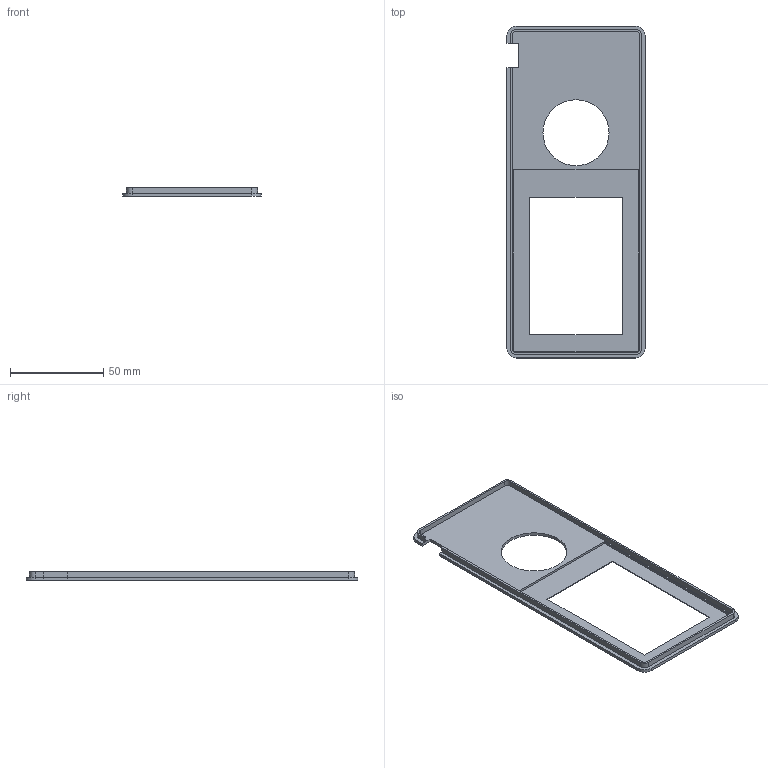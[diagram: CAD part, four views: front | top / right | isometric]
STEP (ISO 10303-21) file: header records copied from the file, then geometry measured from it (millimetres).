
FILE_DESCRIPTION(('Open CASCADE Model'),'2;1');
FILE_NAME('Open CASCADE Shape Model','2026-09-22T06:57:09',('Author'),( 'Open CASCADE'),'Open CASCADE STEP processor 7.9','Open CASCADE 7.9' ,'Unknown');
FILE_SCHEMA(('AUTOMOTIVE_DESIGN { 1 0 10303 214 1 1 1 1 }'));
Length unit declared in the file: millimetre
Products named in the file (1): Open CASCADE STEP translator 7.9 2
Bounding box: 74 x 178 x 4.6 mm (x, y, z)
Volume: 11473.1 mm3; surface area: 21144.4 mm2
Topology: 1 solids, 1 shells, 44 faces, 123 edges, 82 vertices
Faces by surface type: plane 31, cylinder 13
Full cylindrical faces by diameter (mm): 35.4 x1
Entity records: 3060 total; most frequent: CARTESIAN_POINT 556, DIRECTION 475, LINE 317, VECTOR 317, ORIENTED_EDGE 246, PCURVE 246, DEFINITIONAL_REPRESENTATION 246, EDGE_CURVE 123
